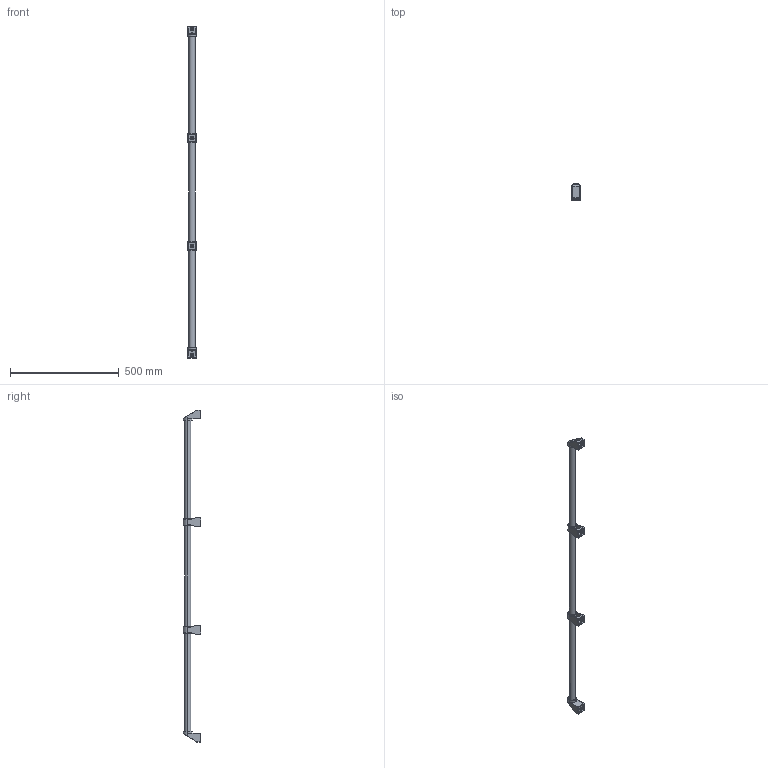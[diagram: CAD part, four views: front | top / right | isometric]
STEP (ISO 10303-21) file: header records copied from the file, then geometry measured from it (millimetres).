
FILE_DESCRIPTION (( 'STEP AP203' ), '1' );
FILE_NAME ('DH28-L1500-E2-C1.STEP', '2025-12-25T08:35:34', ( '' ), ( '' ), 'SwSTEP 2.0', 'SolidWorks 2022', '' );
FILE_SCHEMA (( 'CONFIG_CONTROL_DESIGN' ));
Length unit declared in the file: millimetre
Products named in the file (4): DH28-L1500-E2-C1; HB-D28-СENTER; PR-28X3-A_L=1450 мм; HB-D28-END
Assembly tree (5 placements, depth 2):
  DH28-L1500-E2-C1
    PR-28X3-A_L=1450 мм
    HB-D28-END  x2
    HB-D28-СENTER  x2
Bounding box: 40 x 79 x 1530 mm (x, y, z)
Volume: 542619.2 mm3; surface area: 302184.7 mm2
Topology: 5 solids, 5 shells, 668 faces, 1556 edges, 800 vertices
Faces by surface type: cylinder 314, plane 162, sphere 124, torus 58, bspline 10
Entity records: 9725 total; most frequent: CARTESIAN_POINT 1850, DIRECTION 1714, ORIENTED_EDGE 1452, EDGE_CURVE 726, AXIS2_PLACEMENT_3D 682, VERTEX_POINT 404, EDGE_LOOP 356, LINE 350
